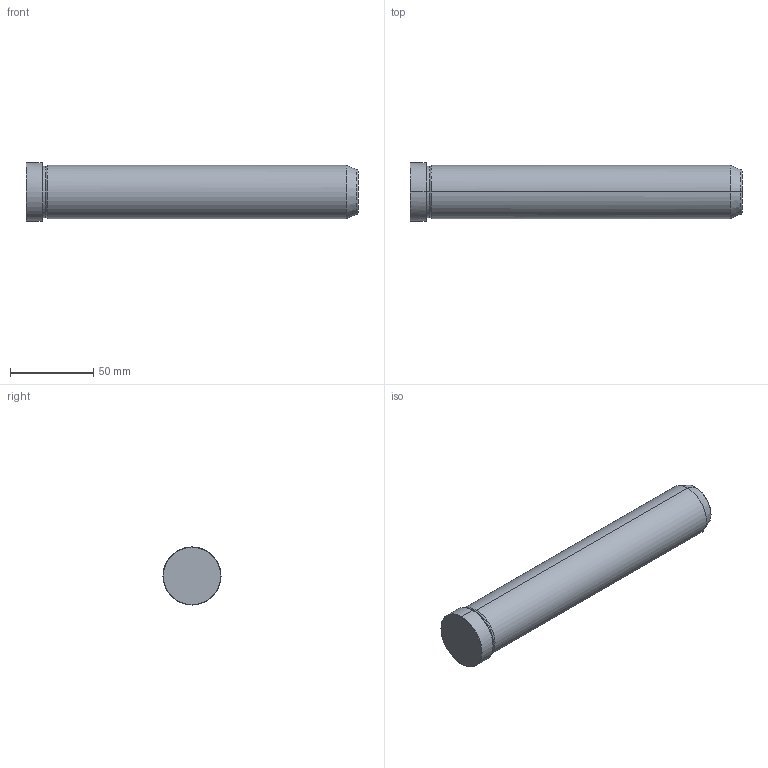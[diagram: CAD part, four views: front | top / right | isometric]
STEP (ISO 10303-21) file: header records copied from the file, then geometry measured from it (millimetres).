
FILE_DESCRIPTION(('CATIA V5 STEP Exchange'),'2;1');
FILE_NAME('C:\Users\Utente\Desktop\IO LAVORO\3D X SITO CF\X SITO\PLASTICA\549\549-32X200.stp','2021-12-18T08:05:24+00:00',('none'),('none'),'CATIA Version 5 Release 20 GA (IN-10)','CATIA V5 STEP AP203','none');
FILE_SCHEMA(('CONFIG_CONTROL_DESIGN'));
Length unit declared in the file: millimetre
Products named in the file (1): 549-32X200
Bounding box: 200 x 35 x 35 mm (x, y, z)
Volume: 161354.7 mm3; surface area: 21856.2 mm2
Topology: 1 solids, 1 shells, 19 faces, 56 edges, 40 vertices
Faces by surface type: cone 8, cylinder 6, plane 3, torus 2
Entity records: 736 total; most frequent: CARTESIAN_POINT 192, ORIENTED_EDGE 112, DIRECTION 86, EDGE_CURVE 56, AXIS2_PLACEMENT_3D 54, VERTEX_POINT 40, CIRCLE 34, EDGE_LOOP 20
